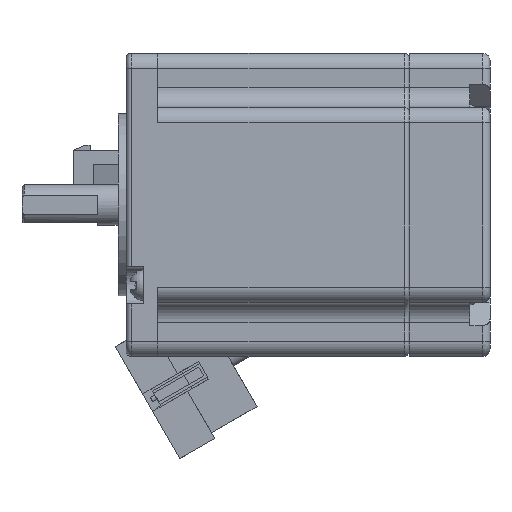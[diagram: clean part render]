
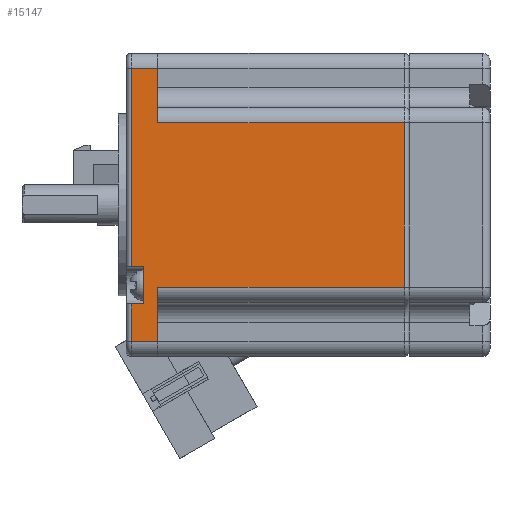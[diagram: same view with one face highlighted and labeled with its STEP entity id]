
A CAD part, front view. The second image highlights one B-rep face of the part: STEP entity #15147.
In plain terms, the highlighted planar face has unit normal (0, -1, 0).
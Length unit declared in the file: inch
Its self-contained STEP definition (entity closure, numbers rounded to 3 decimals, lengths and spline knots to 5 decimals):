
#1457=LINE('',#25328,#2854);
#1505=LINE('',#25461,#2902);
#1506=LINE('',#25466,#2903);
#1507=LINE('',#25467,#2904);
#1508=LINE('',#25469,#2905);
#1509=LINE('',#25471,#2906);
#1510=LINE('',#25473,#2907);
#1511=LINE('',#25475,#2908);
#1512=LINE('',#25477,#2909);
#1513=LINE('',#25479,#2910);
#1514=LINE('',#25481,#2911);
#1515=LINE('',#25482,#2912);
#2854=VECTOR('',#20223,1.28346);
#2902=VECTOR('',#20367,1.91732);
#2903=VECTOR('',#20372,0.20866);
#2904=VECTOR('',#20373,0.42126);
#2905=VECTOR('',#20374,1.91732);
#2906=VECTOR('',#20375,0.42126);
#2907=VECTOR('',#20376,0.20866);
#2908=VECTOR('',#20377,1.54331);
#2909=VECTOR('',#20378,0.09843);
#2910=VECTOR('',#20379,0.29134);
#2911=VECTOR('',#20380,0.09843);
#2912=VECTOR('',#20381,0.29134);
#3590=PLANE('',#16505);
#4611=FACE_OUTER_BOUND('',#5628,.T.);
#5628=EDGE_LOOP('',(#13451,#13452,#13453,#13454,#13455,#13456,#13457,#13458,
#13459,#13460,#13461,#13462));
#7627=VERTEX_POINT('',#25322);
#7628=VERTEX_POINT('',#25326);
#7665=VERTEX_POINT('',#25460);
#7666=VERTEX_POINT('',#25464);
#7667=VERTEX_POINT('',#25465);
#7668=VERTEX_POINT('',#25468);
#7669=VERTEX_POINT('',#25470);
#7670=VERTEX_POINT('',#25472);
#7671=VERTEX_POINT('',#25474);
#7672=VERTEX_POINT('',#25476);
#7673=VERTEX_POINT('',#25478);
#7674=VERTEX_POINT('',#25480);
#9594=EDGE_CURVE('',#7628,#7627,#1457,.T.);
#9654=EDGE_CURVE('',#7627,#7665,#1505,.T.);
#9656=EDGE_CURVE('',#7666,#7667,#1506,.T.);
#9657=EDGE_CURVE('',#7667,#7665,#1507,.T.);
#9658=EDGE_CURVE('',#7628,#7668,#1508,.T.);
#9659=EDGE_CURVE('',#7668,#7669,#1509,.T.);
#9660=EDGE_CURVE('',#7669,#7670,#1510,.T.);
#9661=EDGE_CURVE('',#7670,#7671,#1511,.T.);
#9662=EDGE_CURVE('',#7671,#7672,#1512,.T.);
#9663=EDGE_CURVE('',#7672,#7673,#1513,.T.);
#9664=EDGE_CURVE('',#7673,#7674,#1514,.T.);
#9665=EDGE_CURVE('',#7674,#7666,#1515,.T.);
#13451=ORIENTED_EDGE('',*,*,#9656,.T.);
#13452=ORIENTED_EDGE('',*,*,#9657,.T.);
#13453=ORIENTED_EDGE('',*,*,#9654,.F.);
#13454=ORIENTED_EDGE('',*,*,#9594,.F.);
#13455=ORIENTED_EDGE('',*,*,#9658,.T.);
#13456=ORIENTED_EDGE('',*,*,#9659,.T.);
#13457=ORIENTED_EDGE('',*,*,#9660,.T.);
#13458=ORIENTED_EDGE('',*,*,#9661,.T.);
#13459=ORIENTED_EDGE('',*,*,#9662,.T.);
#13460=ORIENTED_EDGE('',*,*,#9663,.T.);
#13461=ORIENTED_EDGE('',*,*,#9664,.T.);
#13462=ORIENTED_EDGE('',*,*,#9665,.T.);
#15147=ADVANCED_FACE('',(#4611),#3590,.T.);
#16505=AXIS2_PLACEMENT_3D('',#25463,#20370,#20371);
#20223=DIRECTION('',(0.,0.,-1.));
#20367=DIRECTION('',(-1.,0.,0.));
#20370=DIRECTION('center_axis',(0.,-1.,0.));
#20371=DIRECTION('ref_axis',(1.,0.,0.));
#20372=DIRECTION('',(1.,0.,0.));
#20373=DIRECTION('',(0.,0.,1.));
#20374=DIRECTION('',(-1.,0.,0.));
#20375=DIRECTION('',(0.,0.,1.));
#20376=DIRECTION('',(-1.,0.,0.));
#20377=DIRECTION('',(0.,0.,-1.));
#20378=DIRECTION('',(1.,0.,0.));
#20379=DIRECTION('',(0.,0.,-1.));
#20380=DIRECTION('',(-1.,0.,0.));
#20381=DIRECTION('',(0.,0.,-1.));
#25322=CARTESIAN_POINT('',(-0.76485,-2.3622,-1.82283));
#25326=CARTESIAN_POINT('',(-0.76485,-2.3622,-0.53937));
#25328=CARTESIAN_POINT('',(-0.76485,-2.3622,-3.62897));
#25460=CARTESIAN_POINT('',(-2.68217,-2.3622,-1.82283));
#25461=CARTESIAN_POINT('',(-2.68217,-2.3622,-1.82283));
#25463=CARTESIAN_POINT('Origin',(-2.9302,-2.3622,0.));
#25464=CARTESIAN_POINT('',(-2.89083,-2.3622,-2.24409));
#25465=CARTESIAN_POINT('',(-2.68217,-2.3622,-2.24409));
#25466=CARTESIAN_POINT('',(-2.9302,-2.3622,-2.24409));
#25467=CARTESIAN_POINT('',(-2.68217,-2.3622,0.));
#25468=CARTESIAN_POINT('',(-2.68217,-2.3622,-0.53937));
#25469=CARTESIAN_POINT('',(-2.9302,-2.3622,-0.53937));
#25470=CARTESIAN_POINT('',(-2.68217,-2.3622,-0.11811));
#25471=CARTESIAN_POINT('',(-2.68217,-2.3622,0.));
#25472=CARTESIAN_POINT('',(-2.89083,-2.3622,-0.11811));
#25473=CARTESIAN_POINT('',(-2.9302,-2.3622,-0.11811));
#25474=CARTESIAN_POINT('',(-2.89083,-2.3622,-1.66142));
#25475=CARTESIAN_POINT('',(-2.89083,-2.3622,0.));
#25476=CARTESIAN_POINT('',(-2.79241,-2.3622,-1.66142));
#25477=CARTESIAN_POINT('',(-2.9302,-2.3622,-1.66142));
#25478=CARTESIAN_POINT('',(-2.79241,-2.3622,-1.95276));
#25479=CARTESIAN_POINT('',(-2.79241,-2.3622,0.));
#25480=CARTESIAN_POINT('',(-2.89083,-2.3622,-1.95276));
#25481=CARTESIAN_POINT('',(-2.9302,-2.3622,-1.95276));
#25482=CARTESIAN_POINT('',(-2.89083,-2.3622,0.));
